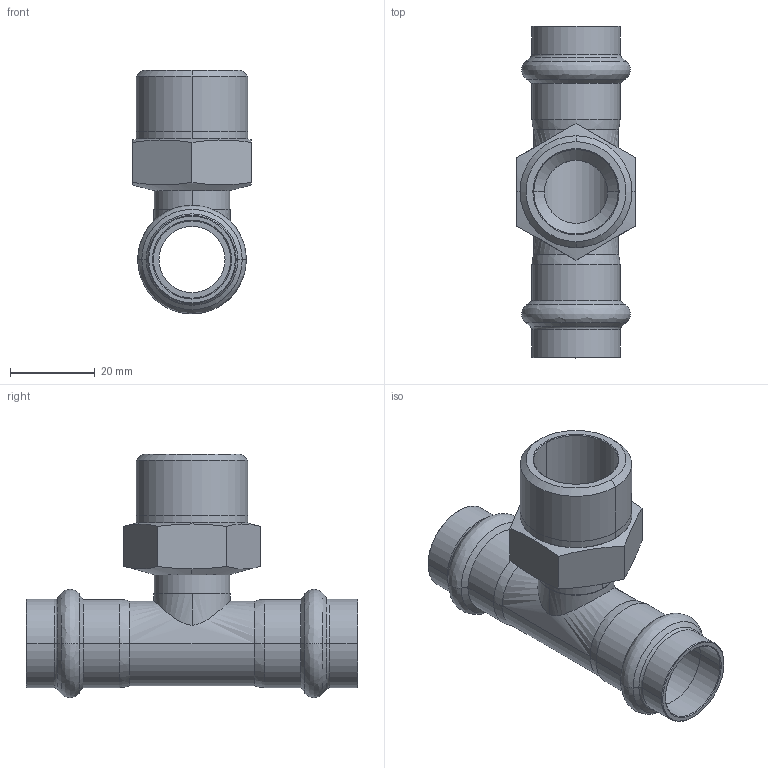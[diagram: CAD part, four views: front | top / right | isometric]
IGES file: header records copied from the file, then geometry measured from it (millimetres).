
Start section: Elysium IGES Interface
Global section: file name: C:\Users\Wallenburg\Desktop\3d modellen sudo\S-Pr VP\SP6132GV\6132GVW183418.igs; native system: CoCreate Modeling 17.00A  17-Jun-2010; preprocessor: CoCreate IGES_3D V2.2; author: Unknown; organization: Unknown; date: 20130123.160121; units: millimetre
Bounding box: 28 x 78.51 x 57.64 mm (x, y, z)
Volume: 16378.1 mm3; surface area: 15621 mm2
Topology: 1 solids, 1 shells, 118 faces, 257 edges, 149 vertices
Faces by surface type: bspline 118
